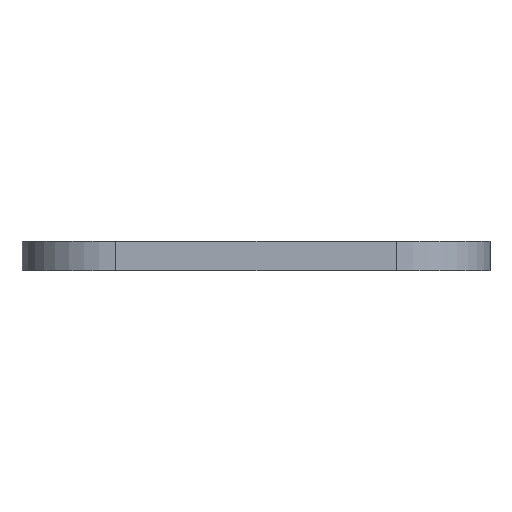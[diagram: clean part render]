
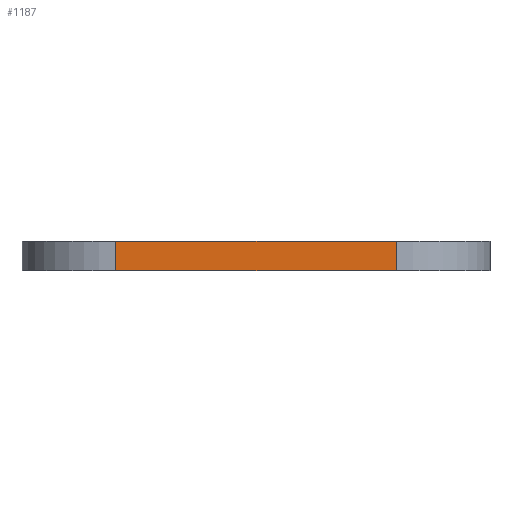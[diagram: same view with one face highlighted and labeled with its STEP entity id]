
A CAD part, left-side view. The second image highlights one B-rep face of the part: STEP entity #1187.
In plain terms, the highlighted planar face has unit normal (-1, 0, 0).
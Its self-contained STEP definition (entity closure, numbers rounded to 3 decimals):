
#44 = PLANE('',#45);
#45 = AXIS2_PLACEMENT_3D('',#46,#47,#48);
#46 = CARTESIAN_POINT('',(8.255,-15.178,8.75));
#47 = DIRECTION('',(0.,0.,1.));
#48 = DIRECTION('',(-1.,0.,0.));
#100 = PLANE('',#101);
#101 = AXIS2_PLACEMENT_3D('',#102,#103,#104);
#102 = CARTESIAN_POINT('',(8.255,-15.178,7.95));
#103 = DIRECTION('',(0.,0.,1.));
#104 = DIRECTION('',(-1.,0.,0.));
#195 = VERTEX_POINT('',#196);
#196 = CARTESIAN_POINT('',(-8.255,-17.718,8.75));
#215 = CYLINDRICAL_SURFACE('',#216,2.54);
#216 = AXIS2_PLACEMENT_3D('',#217,#218,#219);
#217 = CARTESIAN_POINT('',(-5.715,-17.718,7.95));
#218 = DIRECTION('',(0.,0.,1.));
#219 = DIRECTION('',(-1.,0.,0.));
#227 = EDGE_CURVE('',#195,#228,#230,.T.);
#228 = VERTEX_POINT('',#229);
#229 = CARTESIAN_POINT('',(-8.255,-25.338,8.75));
#230 = SURFACE_CURVE('',#231,(#235,#242),.PCURVE_S1.);
#231 = LINE('',#232,#233);
#232 = CARTESIAN_POINT('',(-8.255,-15.178,8.75));
#233 = VECTOR('',#234,1.);
#234 = DIRECTION('',(0.,-1.,0.));
#235 = PCURVE('',#44,#236);
#236 = DEFINITIONAL_REPRESENTATION('',(#237),#241);
#237 = LINE('',#238,#239);
#238 = CARTESIAN_POINT('',(16.51,0.));
#239 = VECTOR('',#240,1.);
#240 = DIRECTION('',(0.,1.));
#241 = ( GEOMETRIC_REPRESENTATION_CONTEXT(2) 
PARAMETRIC_REPRESENTATION_CONTEXT() REPRESENTATION_CONTEXT('2D SPACE',''
  ) );
#242 = PCURVE('',#243,#248);
#243 = PLANE('',#244);
#244 = AXIS2_PLACEMENT_3D('',#245,#246,#247);
#245 = CARTESIAN_POINT('',(-8.255,-15.178,7.95));
#246 = DIRECTION('',(-1.,0.,0.));
#247 = DIRECTION('',(0.,0.,1.));
#248 = DEFINITIONAL_REPRESENTATION('',(#249),#253);
#249 = LINE('',#250,#251);
#250 = CARTESIAN_POINT('',(0.8,0.));
#251 = VECTOR('',#252,1.);
#252 = DIRECTION('',(0.,-1.));
#253 = ( GEOMETRIC_REPRESENTATION_CONTEXT(2) 
PARAMETRIC_REPRESENTATION_CONTEXT() REPRESENTATION_CONTEXT('2D SPACE',''
  ) );
#272 = CYLINDRICAL_SURFACE('',#273,2.54);
#273 = AXIS2_PLACEMENT_3D('',#274,#275,#276);
#274 = CARTESIAN_POINT('',(-5.715,-25.338,7.95));
#275 = DIRECTION('',(0.,0.,1.));
#276 = DIRECTION('',(-1.,0.,0.));
#750 = VERTEX_POINT('',#751);
#751 = CARTESIAN_POINT('',(-8.255,-17.718,7.95));
#777 = EDGE_CURVE('',#750,#778,#780,.T.);
#778 = VERTEX_POINT('',#779);
#779 = CARTESIAN_POINT('',(-8.255,-25.338,7.95));
#780 = SURFACE_CURVE('',#781,(#785,#792),.PCURVE_S1.);
#781 = LINE('',#782,#783);
#782 = CARTESIAN_POINT('',(-8.255,-15.178,7.95));
#783 = VECTOR('',#784,1.);
#784 = DIRECTION('',(0.,-1.,0.));
#785 = PCURVE('',#100,#786);
#786 = DEFINITIONAL_REPRESENTATION('',(#787),#791);
#787 = LINE('',#788,#789);
#788 = CARTESIAN_POINT('',(16.51,0.));
#789 = VECTOR('',#790,1.);
#790 = DIRECTION('',(0.,1.));
#791 = ( GEOMETRIC_REPRESENTATION_CONTEXT(2) 
PARAMETRIC_REPRESENTATION_CONTEXT() REPRESENTATION_CONTEXT('2D SPACE',''
  ) );
#792 = PCURVE('',#243,#793);
#793 = DEFINITIONAL_REPRESENTATION('',(#794),#798);
#794 = LINE('',#795,#796);
#795 = CARTESIAN_POINT('',(0.,0.));
#796 = VECTOR('',#797,1.);
#797 = DIRECTION('',(0.,-1.));
#798 = ( GEOMETRIC_REPRESENTATION_CONTEXT(2) 
PARAMETRIC_REPRESENTATION_CONTEXT() REPRESENTATION_CONTEXT('2D SPACE',''
  ) );
#1140 = EDGE_CURVE('',#750,#195,#1141,.T.);
#1141 = SURFACE_CURVE('',#1142,(#1146,#1153),.PCURVE_S1.);
#1142 = LINE('',#1143,#1144);
#1143 = CARTESIAN_POINT('',(-8.255,-17.718,7.95));
#1144 = VECTOR('',#1145,1.);
#1145 = DIRECTION('',(0.,0.,1.));
#1146 = PCURVE('',#215,#1147);
#1147 = DEFINITIONAL_REPRESENTATION('',(#1148),#1152);
#1148 = LINE('',#1149,#1150);
#1149 = CARTESIAN_POINT('',(-0.,0.));
#1150 = VECTOR('',#1151,1.);
#1151 = DIRECTION('',(-0.,1.));
#1152 = ( GEOMETRIC_REPRESENTATION_CONTEXT(2) 
PARAMETRIC_REPRESENTATION_CONTEXT() REPRESENTATION_CONTEXT('2D SPACE',''
  ) );
#1153 = PCURVE('',#243,#1154);
#1154 = DEFINITIONAL_REPRESENTATION('',(#1155),#1159);
#1155 = LINE('',#1156,#1157);
#1156 = CARTESIAN_POINT('',(0.,-2.54));
#1157 = VECTOR('',#1158,1.);
#1158 = DIRECTION('',(1.,0.));
#1159 = ( GEOMETRIC_REPRESENTATION_CONTEXT(2) 
PARAMETRIC_REPRESENTATION_CONTEXT() REPRESENTATION_CONTEXT('2D SPACE',''
  ) );
#1167 = EDGE_CURVE('',#778,#228,#1168,.T.);
#1168 = SURFACE_CURVE('',#1169,(#1173,#1180),.PCURVE_S1.);
#1169 = LINE('',#1170,#1171);
#1170 = CARTESIAN_POINT('',(-8.255,-25.338,7.95));
#1171 = VECTOR('',#1172,1.);
#1172 = DIRECTION('',(0.,0.,1.));
#1173 = PCURVE('',#272,#1174);
#1174 = DEFINITIONAL_REPRESENTATION('',(#1175),#1179);
#1175 = LINE('',#1176,#1177);
#1176 = CARTESIAN_POINT('',(0.,0.));
#1177 = VECTOR('',#1178,1.);
#1178 = DIRECTION('',(0.,1.));
#1179 = ( GEOMETRIC_REPRESENTATION_CONTEXT(2) 
PARAMETRIC_REPRESENTATION_CONTEXT() REPRESENTATION_CONTEXT('2D SPACE',''
  ) );
#1180 = PCURVE('',#243,#1181);
#1181 = DEFINITIONAL_REPRESENTATION('',(#1182),#1186);
#1182 = LINE('',#1183,#1184);
#1183 = CARTESIAN_POINT('',(0.,-10.16));
#1184 = VECTOR('',#1185,1.);
#1185 = DIRECTION('',(1.,0.));
#1186 = ( GEOMETRIC_REPRESENTATION_CONTEXT(2) 
PARAMETRIC_REPRESENTATION_CONTEXT() REPRESENTATION_CONTEXT('2D SPACE',''
  ) );
#1187 = ADVANCED_FACE('',(#1188),#243,.T.);
#1188 = FACE_BOUND('',#1189,.T.);
#1189 = EDGE_LOOP('',(#1190,#1191,#1192,#1193));
#1190 = ORIENTED_EDGE('',*,*,#227,.F.);
#1191 = ORIENTED_EDGE('',*,*,#1140,.F.);
#1192 = ORIENTED_EDGE('',*,*,#777,.T.);
#1193 = ORIENTED_EDGE('',*,*,#1167,.T.);
